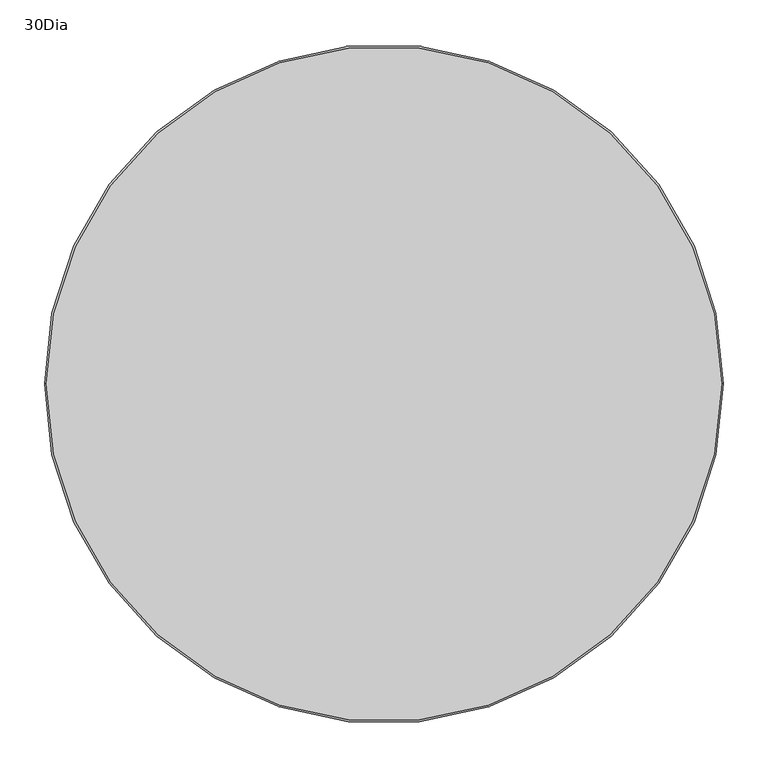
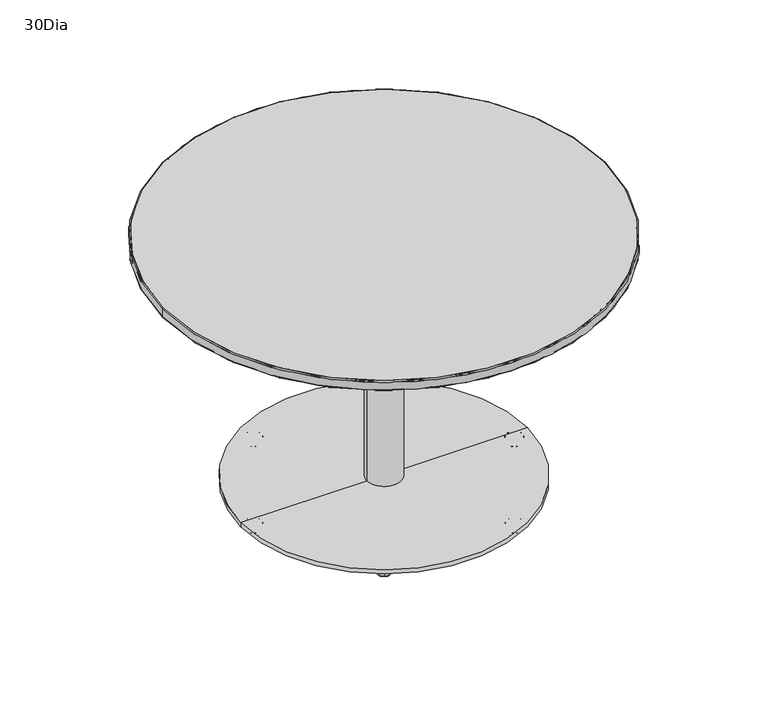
"""IFC4 building model written with IfcOpenShell, lengths in millimetres: furniture geometry, Coalesse_AM_Table_Occasional_Montara650Table_Round : 30Dia."""

from ifc_helpers import new_model, si_unit, point, frame, origin, origin_with_axes, origin_2d, place, context, project, spatial, polyline, circle_curve, ellipse_curve, trimmed, segment, composite_curve, outline, extrude, source, transform, mapped, element, save
from ifc_brep_helpers import plane_surface, cylinder_surface, revolved_surface, advanced_brep


def furniture_30dia_c0a6456b(model_context):
    return source(origin(), model_context, "Body", "SolidModel", [
        advanced_brep(
        [(213.8317407, 0.0, 0.0), (234.5998697, 0.0, 0.0), (224.2158052, 0.0, 0.0), (213.05887, 0.0, 0.5718943), (235.3727405, 0.0, 0.5718943), (209.8074529, 0.0, 11.2068005), (238.6241576, 0.0, 11.2068005), (210.3943809, 0.0, 11.9999882), (238.0372296, 0.0, 11.9999882), (224.2158052, 0.0, 11.9999882)],
        [
            (0, 1, circle_curve(frame((224.2158052, 0.0, 0.0), z_axis=(0.0, 0.0, -1.0), x_axis=(1.0, 0.0, 0.0)), 10.3840645)),
            (1, 2),
            (2, 0),
            (1, 0, circle_curve(frame((224.2158052, 0.0, 0.0), z_axis=(0.0, 0.0, -1.0), x_axis=(1.0, 0.0, 0.0)), 10.3840645)),
            (3, 4, circle_curve(frame((224.2158052, 0.0, 0.5718943), z_axis=(0.0, 0.0, -1.0), x_axis=(1.0, 0.0, 0.0)), 11.1569353)),
            (4, 1, circle_curve(frame((234.5998697, 0.0, 0.8081846), z_axis=(0.0, 1.0, 0.0), x_axis=(1.0, 0.0, 0.0)), 0.8081846)),
            (0, 3, circle_curve(frame((213.8317407, 0.0, 0.8081846), z_axis=(0.0, 1.0, 0.0), x_axis=(-1.0, 0.0, 0.0)), 0.8081846)),
            (4, 3, circle_curve(frame((224.2158052, 0.0, 0.5718943), z_axis=(0.0, 0.0, -1.0), x_axis=(1.0, 0.0, 0.0)), 11.1569353)),
            (5, 6, circle_curve(frame((224.2158052, 0.0, 11.2068005), z_axis=(0.0, 0.0, -1.0), x_axis=(1.0, 0.0, 0.0)), 14.4083524)),
            (6, 4),
            (3, 5),
            (6, 5, circle_curve(frame((224.2158052, 0.0, 11.2068005), z_axis=(0.0, 0.0, -1.0), x_axis=(1.0, 0.0, 0.0)), 14.4083524)),
            (7, 8, circle_curve(frame((224.2158052, 0.0, 11.9999882), z_axis=(0.0, 0.0, -1.0), x_axis=(1.0, 0.0, 0.0)), 13.8214243)),
            (8, 6, circle_curve(frame((238.0372296, 0.0, 11.3862424), z_axis=(0.0, 1.0, 0.0), x_axis=(1.0, 0.0, 0.0)), 0.6137458)),
            (5, 7, circle_curve(frame((210.3943809, 0.0, 11.3862424), z_axis=(0.0, 1.0, 0.0), x_axis=(-1.0, 0.0, 0.0)), 0.6137458)),
            (8, 7, circle_curve(frame((224.2158052, 0.0, 11.9999882), z_axis=(0.0, 0.0, -1.0), x_axis=(1.0, 0.0, 0.0)), 13.8214243)),
            (9, 8),
            (7, 9),
        ],
        [
            plane_surface(frame((224.2158052, 0.0, 0.0), z_axis=(0.0, 0.0, -1.0), x_axis=(1.0, 0.0, 0.0))),
            revolved_surface(trimmed(ellipse_curve(frame((234.5998697, 0.0, 0.8081846), z_axis=(0.0, -1.0, 0.0), x_axis=(1.0, 0.0, 0.0)), 0.8081846, 0.8081846), [point((234.5998697, 0.0, 0.0))], [point((235.3727405, 0.0, 0.5718943))], True, "CARTESIAN"), (224.2158052, 0.0, 12.2086845), (0.0, 0.0, 1.0)),
            revolved_surface(polyline([(235.3727405, 0.0, 0.5718943), (238.6241576, 0.0, 11.2068005)]), (224.2158052, 0.0, 12.2086845), (0.0, 0.0, 1.0)),
            revolved_surface(trimmed(ellipse_curve(frame((238.0372296, 0.0, 11.3862424), z_axis=(0.0, -1.0, 0.0), x_axis=(1.0, 0.0, 0.0)), 0.6137458, 0.6137458), [point((238.6241576, 0.0, 11.2068005))], [point((238.0372296, 0.0, 11.9999882))], True, "CARTESIAN"), (224.2158052, 0.0, 12.2086845), (0.0, 0.0, 1.0)),
            plane_surface(frame((224.2158052, 0.0, 11.9999882), z_axis=(0.0, 0.0, 1.0), x_axis=(1.0, 0.0, 0.0))),
        ],
        [
            (0, [[1, 2, 3]]),
            (0, [[4, -3, -2]]),
            (1, [[5, 6, -1, 7]]),
            (1, [[8, -7, -4, -6]]),
            (2, [[9, 10, -5, 11]]),
            (2, [[12, -11, -8, -10]]),
            (3, [[13, 14, -9, 15]]),
            (3, [[16, -15, -12, -14]]),
            (4, [[17, -13, 18]]),
            (4, [[-18, -16, -17]]),
        ],
    ),
        advanced_brep(
        [(-112.4946772, 194.8464965, 0.0), (-117.6867095, 203.8393602, 0.0), (-107.302645, 185.8536329, 0.0), (-118.0731448, 204.5086859, 0.5718943), (-106.9162096, 185.1843072, 0.5718943), (-119.6988534, 207.3244957, 11.2068005), (-105.290501, 182.3684973, 11.2068005), (-119.4053894, 206.8162011, 11.9999882), (-105.5839651, 182.8767919, 11.9999882), (-112.4946772, 194.8464965, 11.9999882)],
        [
            (0, 1),
            (1, 2, circle_curve(frame((-112.4946772, 194.8464965, 0.0), z_axis=(0.0, 0.0, -1.0), x_axis=(-0.5000000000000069, 0.8660254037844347, 0.0)), 10.3840645)),
            (2, 0),
            (2, 1, circle_curve(frame((-112.4946772, 194.8464965, 0.0), z_axis=(0.0, 0.0, -1.0), x_axis=(-0.5000000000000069, 0.8660254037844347, 0.0)), 10.3840645)),
            (1, 3, circle_curve(frame((-117.6867095, 203.8393602, 0.8081846), z_axis=(0.8660254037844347, 0.5000000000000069, 0.0), x_axis=(-0.5000000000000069, 0.8660254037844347, 0.0)), 0.8081846)),
            (3, 4, circle_curve(frame((-112.4946772, 194.8464965, 0.5718943), z_axis=(0.0, 0.0, -1.0), x_axis=(-0.5000000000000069, 0.8660254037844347, 0.0)), 11.1569353)),
            (4, 2, circle_curve(frame((-107.302645, 185.8536329, 0.8081846), z_axis=(0.866025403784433, 0.5000000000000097, 0.0), x_axis=(0.5000000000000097, -0.866025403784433, 0.0)), 0.8081846)),
            (4, 3, circle_curve(frame((-112.4946772, 194.8464965, 0.5718943), z_axis=(0.0, 0.0, -1.0), x_axis=(-0.5000000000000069, 0.8660254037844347, 0.0)), 11.1569353)),
            (3, 5),
            (5, 6, circle_curve(frame((-112.4946772, 194.8464965, 11.2068005), z_axis=(0.0, 0.0, -1.0), x_axis=(-0.5000000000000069, 0.8660254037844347, 0.0)), 14.4083524)),
            (6, 4),
            (6, 5, circle_curve(frame((-112.4946772, 194.8464965, 11.2068005), z_axis=(0.0, 0.0, -1.0), x_axis=(-0.5000000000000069, 0.8660254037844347, 0.0)), 14.4083524)),
            (5, 7, circle_curve(frame((-119.4053894, 206.8162011, 11.3862424), z_axis=(0.8660254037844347, 0.5000000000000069, 0.0), x_axis=(-0.5000000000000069, 0.8660254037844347, 0.0)), 0.6137458)),
            (7, 8, circle_curve(frame((-112.4946772, 194.8464965, 11.9999882), z_axis=(0.0, 0.0, -1.0), x_axis=(-0.5000000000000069, 0.8660254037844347, 0.0)), 13.8214243)),
            (8, 6, circle_curve(frame((-105.5839651, 182.8767919, 11.3862424), z_axis=(0.866025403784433, 0.5000000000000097, 0.0), x_axis=(0.5000000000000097, -0.866025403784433, 0.0)), 0.6137458)),
            (8, 7, circle_curve(frame((-112.4946772, 194.8464965, 11.9999882), z_axis=(0.0, 0.0, -1.0), x_axis=(-0.5000000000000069, 0.8660254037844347, 0.0)), 13.8214243)),
            (7, 9),
            (9, 8),
        ],
        [
            plane_surface(frame((-112.4946772, 194.8464965, 0.0), z_axis=(0.0, 0.0, -1.0), x_axis=(-0.5000000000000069, 0.8660254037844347, 0.0))),
            revolved_surface(trimmed(ellipse_curve(frame((-117.6867095, 203.8393602, 0.8081846), z_axis=(-0.8660254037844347, -0.5000000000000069, 0.0), x_axis=(-0.5000000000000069, 0.8660254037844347, 0.0)), 0.8081846, 0.8081846), [point((-118.0731448, 204.5086859, 0.5718943))], [point((-117.6867095, 203.8393602, 0.0))], True, "CARTESIAN"), (-112.4946772, 194.8464965, 12.2086845), (0.0, 0.0, -1.0)),
            revolved_surface(polyline([(-119.6988534, 207.3244957, 11.2068005), (-118.0731448, 204.5086859, 0.5718943)]), (-112.4946772, 194.8464965, 12.2086845), (0.0, 0.0, -1.0)),
            revolved_surface(trimmed(ellipse_curve(frame((-119.4053894, 206.8162011, 11.3862424), z_axis=(-0.8660254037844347, -0.5000000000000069, 0.0), x_axis=(-0.5000000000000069, 0.8660254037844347, 0.0)), 0.6137458, 0.6137458), [point((-119.4053894, 206.8162011, 11.9999882))], [point((-119.6988534, 207.3244957, 11.2068005))], True, "CARTESIAN"), (-112.4946772, 194.8464965, 12.2086845), (0.0, 0.0, -1.0)),
            plane_surface(frame((-112.4946772, 194.8464965, 11.9999882), z_axis=(0.0, 0.0, 1.0), x_axis=(-0.5000000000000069, 0.8660254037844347, 0.0))),
        ],
        [
            (0, [[1, 2, 3]]),
            (0, [[-3, 4, -1]]),
            (1, [[-2, 5, 6, 7]]),
            (1, [[-4, -7, 8, -5]]),
            (2, [[-6, 9, 10, 11]]),
            (2, [[-8, -11, 12, -9]]),
            (3, [[-10, 13, 14, 15]]),
            (3, [[-12, -15, 16, -13]]),
            (4, [[-14, 17, 18]]),
            (4, [[-16, -18, -17]]),
        ],
    ),
        advanced_brep(
        [(107.302645, -185.8536329, 0.0), (117.6867095, -203.8393602, 0.0), (112.4946772, -194.8464965, 0.0), (106.9162096, -185.1843072, 0.5718943), (118.0731448, -204.5086859, 0.5718943), (105.290501, -182.3684973, 11.2068005), (119.6988534, -207.3244957, 11.2068005), (105.5839651, -182.8767919, 11.9999882), (119.4053894, -206.8162011, 11.9999882), (112.4946772, -194.8464965, 11.9999882)],
        [
            (0, 1, circle_curve(frame((112.4946772, -194.8464965, 0.0), z_axis=(0.0, 0.0, -1.0), x_axis=(0.5000000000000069, -0.8660254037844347, 0.0)), 10.3840645)),
            (1, 2),
            (2, 0),
            (1, 0, circle_curve(frame((112.4946772, -194.8464965, 0.0), z_axis=(0.0, 0.0, -1.0), x_axis=(0.5000000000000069, -0.8660254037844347, 0.0)), 10.3840645)),
            (3, 4, circle_curve(frame((112.4946772, -194.8464965, 0.5718943), z_axis=(0.0, 0.0, -1.0), x_axis=(0.5000000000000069, -0.8660254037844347, 0.0)), 11.1569353)),
            (4, 1, circle_curve(frame((117.6867095, -203.8393602, 0.8081846), z_axis=(0.8660254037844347, 0.5000000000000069, 0.0), x_axis=(0.5000000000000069, -0.8660254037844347, 0.0)), 0.8081846)),
            (0, 3, circle_curve(frame((107.302645, -185.8536329, 0.8081846), z_axis=(0.8660254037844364, 0.5000000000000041, 0.0), x_axis=(-0.5000000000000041, 0.8660254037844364, 0.0)), 0.8081846)),
            (4, 3, circle_curve(frame((112.4946772, -194.8464965, 0.5718943), z_axis=(0.0, 0.0, -1.0), x_axis=(0.5000000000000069, -0.8660254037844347, 0.0)), 11.1569353)),
            (5, 6, circle_curve(frame((112.4946772, -194.8464965, 11.2068005), z_axis=(0.0, 0.0, -1.0), x_axis=(0.5000000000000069, -0.8660254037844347, 0.0)), 14.4083524)),
            (6, 4),
            (3, 5),
            (6, 5, circle_curve(frame((112.4946772, -194.8464965, 11.2068005), z_axis=(0.0, 0.0, -1.0), x_axis=(0.5000000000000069, -0.8660254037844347, 0.0)), 14.4083524)),
            (7, 8, circle_curve(frame((112.4946772, -194.8464965, 11.9999882), z_axis=(0.0, 0.0, -1.0), x_axis=(0.5000000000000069, -0.8660254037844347, 0.0)), 13.8214243)),
            (8, 6, circle_curve(frame((119.4053894, -206.8162011, 11.3862424), z_axis=(0.8660254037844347, 0.5000000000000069, 0.0), x_axis=(0.5000000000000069, -0.8660254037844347, 0.0)), 0.6137458)),
            (5, 7, circle_curve(frame((105.5839651, -182.8767919, 11.3862424), z_axis=(0.8660254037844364, 0.5000000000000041, 0.0), x_axis=(-0.5000000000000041, 0.8660254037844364, 0.0)), 0.6137458)),
            (8, 7, circle_curve(frame((112.4946772, -194.8464965, 11.9999882), z_axis=(0.0, 0.0, -1.0), x_axis=(0.5000000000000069, -0.8660254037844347, 0.0)), 13.8214243)),
            (9, 8),
            (7, 9),
        ],
        [
            plane_surface(frame((112.4946772, -194.8464965, 0.0), z_axis=(0.0, 0.0, -1.0), x_axis=(0.5000000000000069, -0.8660254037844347, 0.0))),
            revolved_surface(trimmed(ellipse_curve(frame((117.6867095, -203.8393602, 0.8081846), z_axis=(-0.8660254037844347, -0.5000000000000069, 0.0), x_axis=(0.5000000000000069, -0.8660254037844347, 0.0)), 0.8081846, 0.8081846), [point((117.6867095, -203.8393602, 0.0))], [point((118.0731448, -204.5086859, 0.5718943))], True, "CARTESIAN"), (112.4946772, -194.8464965, 12.2086845), (0.0, 0.0, 1.0)),
            revolved_surface(polyline([(118.0731448, -204.5086859, 0.5718943), (119.6988534, -207.3244957, 11.2068005)]), (112.4946772, -194.8464965, 12.2086845), (0.0, 0.0, 1.0)),
            revolved_surface(trimmed(ellipse_curve(frame((119.4053894, -206.8162011, 11.3862424), z_axis=(-0.8660254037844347, -0.5000000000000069, 0.0), x_axis=(0.5000000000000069, -0.8660254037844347, 0.0)), 0.6137458, 0.6137458), [point((119.6988534, -207.3244957, 11.2068005))], [point((119.4053894, -206.8162011, 11.9999882))], True, "CARTESIAN"), (112.4946772, -194.8464965, 12.2086845), (0.0, 0.0, 1.0)),
            plane_surface(frame((112.4946772, -194.8464965, 11.9999882), z_axis=(0.0, 0.0, 1.0), x_axis=(0.5000000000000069, -0.8660254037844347, 0.0))),
        ],
        [
            (0, [[1, 2, 3]]),
            (0, [[4, -3, -2]]),
            (1, [[5, 6, -1, 7]]),
            (1, [[8, -7, -4, -6]]),
            (2, [[9, 10, -5, 11]]),
            (2, [[12, -11, -8, -10]]),
            (3, [[13, 14, -9, 15]]),
            (3, [[16, -15, -12, -14]]),
            (4, [[17, -13, 18]]),
            (4, [[-18, -16, -17]]),
        ],
    ),
        advanced_brep(
        [(107.302645, 185.8536329, 0.0), (117.6867095, 203.8393602, 0.0), (112.4946772, 194.8464965, 0.0), (106.9162096, 185.1843072, 0.5718943), (118.0731448, 204.5086859, 0.5718943), (105.290501, 182.3684973, 11.2068005), (119.6988534, 207.3244957, 11.2068005), (105.5839651, 182.8767919, 11.9999882), (119.4053894, 206.8162011, 11.9999882), (112.4946772, 194.8464965, 11.9999882)],
        [
            (0, 1, circle_curve(frame((112.4946772, 194.8464965, 0.0), z_axis=(0.0, 0.0, -1.0), x_axis=(0.5000000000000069, 0.8660254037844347, 0.0)), 10.3840645)),
            (1, 2),
            (2, 0),
            (1, 0, circle_curve(frame((112.4946772, 194.8464965, 0.0), z_axis=(0.0, 0.0, -1.0), x_axis=(0.5000000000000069, 0.8660254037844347, 0.0)), 10.3840645)),
            (3, 4, circle_curve(frame((112.4946772, 194.8464965, 0.5718943), z_axis=(0.0, 0.0, -1.0), x_axis=(0.5000000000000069, 0.8660254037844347, 0.0)), 11.1569353)),
            (4, 1, circle_curve(frame((117.6867095, 203.8393602, 0.8081846), z_axis=(-0.8660254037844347, 0.5000000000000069, 0.0), x_axis=(0.5000000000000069, 0.8660254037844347, 0.0)), 0.8081846)),
            (0, 3, circle_curve(frame((107.302645, 185.8536329, 0.8081846), z_axis=(-0.866025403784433, 0.5000000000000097, 0.0), x_axis=(-0.5000000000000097, -0.866025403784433, 0.0)), 0.8081846)),
            (4, 3, circle_curve(frame((112.4946772, 194.8464965, 0.5718943), z_axis=(0.0, 0.0, -1.0), x_axis=(0.5000000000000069, 0.8660254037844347, 0.0)), 11.1569353)),
            (5, 6, circle_curve(frame((112.4946772, 194.8464965, 11.2068005), z_axis=(0.0, 0.0, -1.0), x_axis=(0.5000000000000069, 0.8660254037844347, 0.0)), 14.4083524)),
            (6, 4),
            (3, 5),
            (6, 5, circle_curve(frame((112.4946772, 194.8464965, 11.2068005), z_axis=(0.0, 0.0, -1.0), x_axis=(0.5000000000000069, 0.8660254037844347, 0.0)), 14.4083524)),
            (7, 8, circle_curve(frame((112.4946772, 194.8464965, 11.9999882), z_axis=(0.0, 0.0, -1.0), x_axis=(0.5000000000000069, 0.8660254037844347, 0.0)), 13.8214243)),
            (8, 6, circle_curve(frame((119.4053894, 206.8162011, 11.3862424), z_axis=(-0.8660254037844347, 0.5000000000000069, 0.0), x_axis=(0.5000000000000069, 0.8660254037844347, 0.0)), 0.6137458)),
            (5, 7, circle_curve(frame((105.5839651, 182.8767919, 11.3862424), z_axis=(-0.866025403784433, 0.5000000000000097, 0.0), x_axis=(-0.5000000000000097, -0.866025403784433, 0.0)), 0.6137458)),
            (8, 7, circle_curve(frame((112.4946772, 194.8464965, 11.9999882), z_axis=(0.0, 0.0, -1.0), x_axis=(0.5000000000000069, 0.8660254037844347, 0.0)), 13.8214243)),
            (9, 8),
            (7, 9),
        ],
        [
            plane_surface(frame((112.4946772, 194.8464965, 0.0), z_axis=(0.0, 0.0, -1.0), x_axis=(0.5000000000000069, 0.8660254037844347, 0.0))),
            revolved_surface(trimmed(ellipse_curve(frame((117.6867095, 203.8393602, 0.8081846), z_axis=(0.8660254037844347, -0.5000000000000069, 0.0), x_axis=(0.5000000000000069, 0.8660254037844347, 0.0)), 0.8081846, 0.8081846), [point((117.6867095, 203.8393602, 0.0))], [point((118.0731448, 204.5086859, 0.5718943))], True, "CARTESIAN"), (112.4946772, 194.8464965, 12.2086845), (0.0, 0.0, 1.0)),
            revolved_surface(polyline([(118.0731448, 204.5086859, 0.5718943), (119.6988534, 207.3244957, 11.2068005)]), (112.4946772, 194.8464965, 12.2086845), (0.0, 0.0, 1.0)),
            revolved_surface(trimmed(ellipse_curve(frame((119.4053894, 206.8162011, 11.3862424), z_axis=(0.8660254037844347, -0.5000000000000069, 0.0), x_axis=(0.5000000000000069, 0.8660254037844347, 0.0)), 0.6137458, 0.6137458), [point((119.6988534, 207.3244957, 11.2068005))], [point((119.4053894, 206.8162011, 11.9999882))], True, "CARTESIAN"), (112.4946772, 194.8464965, 12.2086845), (0.0, 0.0, 1.0)),
            plane_surface(frame((112.4946772, 194.8464965, 11.9999882), z_axis=(0.0, 0.0, 1.0), x_axis=(0.5000000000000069, 0.8660254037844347, 0.0))),
        ],
        [
            (0, [[1, 2, 3]]),
            (0, [[4, -3, -2]]),
            (1, [[5, 6, -1, 7]]),
            (1, [[8, -7, -4, -6]]),
            (2, [[9, 10, -5, 11]]),
            (2, [[12, -11, -8, -10]]),
            (3, [[13, 14, -9, 15]]),
            (3, [[16, -15, -12, -14]]),
            (4, [[17, -13, 18]]),
            (4, [[-18, -16, -17]]),
        ],
    ),
        advanced_brep(
        [(-112.4946772, -194.8464965, 0.0), (-117.6867095, -203.8393602, 0.0), (-107.302645, -185.8536329, 0.0), (-118.0731448, -204.5086859, 0.5718943), (-106.9162096, -185.1843072, 0.5718943), (-119.6988534, -207.3244957, 11.2068005), (-105.290501, -182.3684973, 11.2068005), (-119.4053894, -206.8162011, 11.9999882), (-105.5839651, -182.8767919, 11.9999882), (-112.4946772, -194.8464965, 11.9999882)],
        [
            (0, 1),
            (1, 2, circle_curve(frame((-112.4946772, -194.8464965, 0.0), z_axis=(0.0, 0.0, -1.0), x_axis=(-0.5000000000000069, -0.8660254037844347, 0.0)), 10.3840645)),
            (2, 0),
            (2, 1, circle_curve(frame((-112.4946772, -194.8464965, 0.0), z_axis=(0.0, 0.0, -1.0), x_axis=(-0.5000000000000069, -0.8660254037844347, 0.0)), 10.3840645)),
            (1, 3, circle_curve(frame((-117.6867095, -203.8393602, 0.8081846), z_axis=(-0.8660254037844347, 0.5000000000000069, 0.0), x_axis=(-0.5000000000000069, -0.8660254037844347, 0.0)), 0.8081846)),
            (3, 4, circle_curve(frame((-112.4946772, -194.8464965, 0.5718943), z_axis=(0.0, 0.0, -1.0), x_axis=(-0.5000000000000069, -0.8660254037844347, 0.0)), 11.1569353)),
            (4, 2, circle_curve(frame((-107.302645, -185.8536329, 0.8081846), z_axis=(-0.8660254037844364, 0.5000000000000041, 0.0), x_axis=(0.5000000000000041, 0.8660254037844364, 0.0)), 0.8081846)),
            (4, 3, circle_curve(frame((-112.4946772, -194.8464965, 0.5718943), z_axis=(0.0, 0.0, -1.0), x_axis=(-0.5000000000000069, -0.8660254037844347, 0.0)), 11.1569353)),
            (3, 5),
            (5, 6, circle_curve(frame((-112.4946772, -194.8464965, 11.2068005), z_axis=(0.0, 0.0, -1.0), x_axis=(-0.5000000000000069, -0.8660254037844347, 0.0)), 14.4083524)),
            (6, 4),
            (6, 5, circle_curve(frame((-112.4946772, -194.8464965, 11.2068005), z_axis=(0.0, 0.0, -1.0), x_axis=(-0.5000000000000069, -0.8660254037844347, 0.0)), 14.4083524)),
            (5, 7, circle_curve(frame((-119.4053894, -206.8162011, 11.3862424), z_axis=(-0.8660254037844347, 0.5000000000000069, 0.0), x_axis=(-0.5000000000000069, -0.8660254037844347, 0.0)), 0.6137458)),
            (7, 8, circle_curve(frame((-112.4946772, -194.8464965, 11.9999882), z_axis=(0.0, 0.0, -1.0), x_axis=(-0.5000000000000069, -0.8660254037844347, 0.0)), 13.8214243)),
            (8, 6, circle_curve(frame((-105.5839651, -182.8767919, 11.3862424), z_axis=(-0.8660254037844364, 0.5000000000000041, 0.0), x_axis=(0.5000000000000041, 0.8660254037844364, 0.0)), 0.6137458)),
            (8, 7, circle_curve(frame((-112.4946772, -194.8464965, 11.9999882), z_axis=(0.0, 0.0, -1.0), x_axis=(-0.5000000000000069, -0.8660254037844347, 0.0)), 13.8214243)),
            (7, 9),
            (9, 8),
        ],
        [
            plane_surface(frame((-112.4946772, -194.8464965, 0.0), z_axis=(0.0, 0.0, -1.0), x_axis=(-0.5000000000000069, -0.8660254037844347, 0.0))),
            revolved_surface(trimmed(ellipse_curve(frame((-117.6867095, -203.8393602, 0.8081846), z_axis=(0.8660254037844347, -0.5000000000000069, 0.0), x_axis=(-0.5000000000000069, -0.8660254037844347, 0.0)), 0.8081846, 0.8081846), [point((-118.0731448, -204.5086859, 0.5718943))], [point((-117.6867095, -203.8393602, 0.0))], True, "CARTESIAN"), (-112.4946772, -194.8464965, 12.2086845), (0.0, 0.0, -1.0)),
            revolved_surface(polyline([(-119.6988534, -207.3244957, 11.2068005), (-118.0731448, -204.5086859, 0.5718943)]), (-112.4946772, -194.8464965, 12.2086845), (0.0, 0.0, -1.0)),
            revolved_surface(trimmed(ellipse_curve(frame((-119.4053894, -206.8162011, 11.3862424), z_axis=(0.8660254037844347, -0.5000000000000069, 0.0), x_axis=(-0.5000000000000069, -0.8660254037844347, 0.0)), 0.6137458, 0.6137458), [point((-119.4053894, -206.8162011, 11.9999882))], [point((-119.6988534, -207.3244957, 11.2068005))], True, "CARTESIAN"), (-112.4946772, -194.8464965, 12.2086845), (0.0, 0.0, -1.0)),
            plane_surface(frame((-112.4946772, -194.8464965, 11.9999882), z_axis=(0.0, 0.0, 1.0), x_axis=(-0.5000000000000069, -0.8660254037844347, 0.0))),
        ],
        [
            (0, [[1, 2, 3]]),
            (0, [[-3, 4, -1]]),
            (1, [[-2, 5, 6, 7]]),
            (1, [[-4, -7, 8, -5]]),
            (2, [[-6, 9, 10, 11]]),
            (2, [[-8, -11, 12, -9]]),
            (3, [[-10, 13, 14, 15]]),
            (3, [[-12, -15, 16, -13]]),
            (4, [[-14, 17, 18]]),
            (4, [[-16, -18, -17]]),
        ],
    ),
        advanced_brep(
        [(214.6052899, 0.0, 0.0), (235.3734189, 0.0, 0.0), (224.9893544, 0.0, 0.0), (213.8324192, 0.0, 0.5718943), (236.1462897, 0.0, 0.5718943), (210.5810021, 0.0, 11.2068005), (239.3977068, 0.0, 11.2068005), (211.1679301, 0.0, 11.9999882), (238.8107788, 0.0, 11.9999882), (224.9893544, 0.0, 11.9999882)],
        [
            (0, 1, circle_curve(frame((224.9893544, 0.0, 0.0), z_axis=(0.0, 0.0, -1.0), x_axis=(1.0, 0.0, 0.0)), 10.3840645)),
            (1, 2),
            (2, 0),
            (1, 0, circle_curve(frame((224.9893544, 0.0, 0.0), z_axis=(0.0, 0.0, -1.0), x_axis=(1.0, 0.0, 0.0)), 10.3840645)),
            (3, 4, circle_curve(frame((224.9893544, 0.0, 0.5718943), z_axis=(0.0, 0.0, -1.0), x_axis=(1.0, 0.0, 0.0)), 11.1569353)),
            (4, 1, circle_curve(frame((235.3734189, 0.0, 0.8081846), z_axis=(0.0, 1.0, 0.0), x_axis=(1.0, 0.0, 0.0)), 0.8081846)),
            (0, 3, circle_curve(frame((214.6052899, 0.0, 0.8081846), z_axis=(0.0, 1.0, 0.0), x_axis=(-1.0, 0.0, 0.0)), 0.8081846)),
            (4, 3, circle_curve(frame((224.9893544, 0.0, 0.5718943), z_axis=(0.0, 0.0, -1.0), x_axis=(1.0, 0.0, 0.0)), 11.1569353)),
            (5, 6, circle_curve(frame((224.9893544, 0.0, 11.2068005), z_axis=(0.0, 0.0, -1.0), x_axis=(1.0, 0.0, 0.0)), 14.4083524)),
            (6, 4),
            (3, 5),
            (6, 5, circle_curve(frame((224.9893544, 0.0, 11.2068005), z_axis=(0.0, 0.0, -1.0), x_axis=(1.0, 0.0, 0.0)), 14.4083524)),
            (7, 8, circle_curve(frame((224.9893544, 0.0, 11.9999882), z_axis=(0.0, 0.0, -1.0), x_axis=(1.0, 0.0, 0.0)), 13.8214243)),
            (8, 6, circle_curve(frame((238.8107788, 0.0, 11.3862424), z_axis=(0.0, 1.0, 0.0), x_axis=(1.0, 0.0, 0.0)), 0.6137458)),
            (5, 7, circle_curve(frame((211.1679301, 0.0, 11.3862424), z_axis=(0.0, 1.0, 0.0), x_axis=(-1.0, 0.0, 0.0)), 0.6137458)),
            (8, 7, circle_curve(frame((224.9893544, 0.0, 11.9999882), z_axis=(0.0, 0.0, -1.0), x_axis=(1.0, 0.0, 0.0)), 13.8214243)),
            (9, 8),
            (7, 9),
        ],
        [
            plane_surface(frame((224.9893544, 0.0, 0.0), z_axis=(0.0, 0.0, -1.0), x_axis=(1.0, 0.0, 0.0))),
            revolved_surface(trimmed(ellipse_curve(frame((235.3734189, 0.0, 0.8081846), z_axis=(0.0, -1.0, 0.0), x_axis=(1.0, 0.0, 0.0)), 0.8081846, 0.8081846), [point((235.3734189, 0.0, 0.0))], [point((236.1462897, 0.0, 0.5718943))], True, "CARTESIAN"), (224.9893544, 0.0, 12.2086845), (0.0, 0.0, 1.0)),
            revolved_surface(polyline([(236.1462897, 0.0, 0.5718943), (239.3977068, 0.0, 11.2068005)]), (224.9893544, 0.0, 12.2086845), (0.0, 0.0, 1.0)),
            revolved_surface(trimmed(ellipse_curve(frame((238.8107788, 0.0, 11.3862424), z_axis=(0.0, -1.0, 0.0), x_axis=(1.0, 0.0, 0.0)), 0.6137458, 0.6137458), [point((239.3977068, 0.0, 11.2068005))], [point((238.8107788, 0.0, 11.9999882))], True, "CARTESIAN"), (224.9893544, 0.0, 12.2086845), (0.0, 0.0, 1.0)),
            plane_surface(frame((224.9893544, 0.0, 11.9999882), z_axis=(0.0, 0.0, 1.0), x_axis=(1.0, 0.0, 0.0))),
        ],
        [
            (0, [[1, 2, 3]]),
            (0, [[4, -3, -2]]),
            (1, [[5, 6, -1, 7]]),
            (1, [[8, -7, -4, -6]]),
            (2, [[9, 10, -5, 11]]),
            (2, [[12, -11, -8, -10]]),
            (3, [[13, 14, -9, 15]]),
            (3, [[16, -15, -12, -14]]),
            (4, [[17, -13, 18]]),
            (4, [[-18, -16, -17]]),
        ],
    ),
        advanced_brep(
        [(-335.026, 0.0, 427.230027), (335.026, 0.0, 427.230027), (-378.968, 0.0, 439.495891), (378.968, 0.0, 439.495891)],
        [
            (0, 1, circle_curve(frame((0.0, 0.0, 427.230027), z_axis=(0.0, 0.0, -1.0), x_axis=(-1.0, 0.0, 0.0)), 335.026)),
            (1, 0, circle_curve(frame((0.0, 0.0, 427.230027), z_axis=(0.0, 0.0, -1.0), x_axis=(1.0, 0.0, 0.0)), 335.026)),
            (2, 3, circle_curve(frame((0.0, 0.0, 439.495891), z_axis=(0.0, 0.0, 1.0), x_axis=(1.0, 0.0, 0.0)), 378.968)),
            (3, 2, circle_curve(frame((0.0, 0.0, 439.495891), z_axis=(0.0, 0.0, 1.0), x_axis=(-1.0, 0.0, 0.0)), 378.968)),
            (2, 0),
            (1, 3),
        ],
        [
            plane_surface(frame((0.0, 0.0, 427.230027), z_axis=(0.0, 0.0, -1.0), x_axis=(0.0, -1.0, 0.0))),
            plane_surface(frame((0.0, 0.0, 439.495891), z_axis=(0.0, 0.0, 1.0), x_axis=(0.0, -1.0, 0.0))),
            revolved_surface(polyline([(335.0259998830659, 0.0, 427.230027), (378.968, 0.0, 439.495891)]), (0.0, 0.0, 333.7116769), (0.0, 0.0, 1.0)),
            revolved_surface(polyline([(-335.0259998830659, 0.0, 427.230027), (-378.968, 0.0, 439.495891)]), (0.0, 0.0, 333.7116769), (0.0, 0.0, 1.0)),
        ],
        [
            (0, [[1, 2]]),
            (1, [[3, 4]]),
            (2, [[-3, 5, -2, 6]]),
            (3, [[-4, -6, -1, -5]]),
        ],
    ),
        extrude(outline(composite_curve([segment(trimmed(circle_curve(origin_2d(), 378.968), [point((-378.968, 0.0))], [point((378.968, 0.0))], False, "CARTESIAN"), True, "CONTINUOUS"), segment(trimmed(circle_curve(origin_2d(), 378.968), [point((378.968, 0.0))], [point((-378.968, 0.0))], False, "CARTESIAN"), True, "CONTINUOUS")], self_intersect=False)), frame((0.0, 0.0, 439.495891), z_axis=(0.0, 0.0, 1.0), x_axis=(1.0, 0.0, 0.0)), (0.0, 0.0, 1.0), 17.704109),
        advanced_brep(
        [(-224.9893544, 0.0, 0.0), (-235.3734189, 0.0, 0.0), (-214.6052899, 0.0, 0.0), (-236.1462897, 0.0, 0.5718943), (-213.8324192, 0.0, 0.5718943), (-239.3977068, 0.0, 11.2068005), (-210.5810021, 0.0, 11.2068005), (-238.8107788, 0.0, 11.9999882), (-211.1679301, 0.0, 11.9999882), (-224.9893544, 0.0, 11.9999882)],
        [
            (0, 1),
            (1, 2, circle_curve(frame((-224.9893544, 0.0, 0.0), z_axis=(0.0, 0.0, -1.0), x_axis=(-1.0, 0.0, 0.0)), 10.3840645)),
            (2, 0),
            (2, 1, circle_curve(frame((-224.9893544, 0.0, 0.0), z_axis=(0.0, 0.0, -1.0), x_axis=(-1.0, 0.0, 0.0)), 10.3840645)),
            (1, 3, circle_curve(frame((-235.3734189, 0.0, 0.8081846), z_axis=(0.0, 1.0, 0.0), x_axis=(-1.0, 0.0, 0.0)), 0.8081846)),
            (3, 4, circle_curve(frame((-224.9893544, 0.0, 0.5718943), z_axis=(0.0, 0.0, -1.0), x_axis=(-1.0, 0.0, 0.0)), 11.1569353)),
            (4, 2, circle_curve(frame((-214.6052899, 0.0, 0.8081846), z_axis=(0.0, 1.0, 0.0), x_axis=(1.0, 0.0, 0.0)), 0.8081846)),
            (4, 3, circle_curve(frame((-224.9893544, 0.0, 0.5718943), z_axis=(0.0, 0.0, -1.0), x_axis=(-1.0, 0.0, 0.0)), 11.1569353)),
            (3, 5),
            (5, 6, circle_curve(frame((-224.9893544, 0.0, 11.2068005), z_axis=(0.0, 0.0, -1.0), x_axis=(-1.0, 0.0, 0.0)), 14.4083524)),
            (6, 4),
            (6, 5, circle_curve(frame((-224.9893544, 0.0, 11.2068005), z_axis=(0.0, 0.0, -1.0), x_axis=(-1.0, 0.0, 0.0)), 14.4083524)),
            (5, 7, circle_curve(frame((-238.8107788, 0.0, 11.3862424), z_axis=(0.0, 1.0, 0.0), x_axis=(-1.0, 0.0, 0.0)), 0.6137458)),
            (7, 8, circle_curve(frame((-224.9893544, 0.0, 11.9999882), z_axis=(0.0, 0.0, -1.0), x_axis=(-1.0, 0.0, 0.0)), 13.8214243)),
            (8, 6, circle_curve(frame((-211.1679301, 0.0, 11.3862424), z_axis=(0.0, 1.0, 0.0), x_axis=(1.0, 0.0, 0.0)), 0.6137458)),
            (8, 7, circle_curve(frame((-224.9893544, 0.0, 11.9999882), z_axis=(0.0, 0.0, -1.0), x_axis=(-1.0, 0.0, 0.0)), 13.8214243)),
            (7, 9),
            (9, 8),
        ],
        [
            plane_surface(frame((-224.9893544, 0.0, 0.0), z_axis=(0.0, 0.0, -1.0), x_axis=(-1.0, 0.0, 0.0))),
            revolved_surface(trimmed(ellipse_curve(frame((-235.3734189, 0.0, 0.8081846), z_axis=(0.0, -1.0, 0.0), x_axis=(-1.0, 0.0, 0.0)), 0.8081846, 0.8081846), [point((-236.1462897, 0.0, 0.5718943))], [point((-235.3734189, 0.0, 0.0))], True, "CARTESIAN"), (-224.9893544, 0.0, 12.2086845), (0.0, 0.0, -1.0)),
            revolved_surface(polyline([(-239.3977068, 0.0, 11.2068005), (-236.1462897, 0.0, 0.5718943)]), (-224.9893544, 0.0, 12.2086845), (0.0, 0.0, -1.0)),
            revolved_surface(trimmed(ellipse_curve(frame((-238.8107788, 0.0, 11.3862424), z_axis=(0.0, -1.0, 0.0), x_axis=(-1.0, 0.0, 0.0)), 0.6137458, 0.6137458), [point((-238.8107788, 0.0, 11.9999882))], [point((-239.3977068, 0.0, 11.2068005))], True, "CARTESIAN"), (-224.9893544, 0.0, 12.2086845), (0.0, 0.0, -1.0)),
            plane_surface(frame((-224.9893544, 0.0, 11.9999882), z_axis=(0.0, 0.0, 1.0), x_axis=(-1.0, 0.0, 0.0))),
        ],
        [
            (0, [[1, 2, 3]]),
            (0, [[-3, 4, -1]]),
            (1, [[-2, 5, 6, 7]]),
            (1, [[-4, -7, 8, -5]]),
            (2, [[-6, 9, 10, 11]]),
            (2, [[-8, -11, 12, -9]]),
            (3, [[-10, 13, 14, 15]]),
            (3, [[-12, -15, 16, -13]]),
            (4, [[-14, 17, 18]]),
            (4, [[-16, -18, -17]]),
        ],
    ),
        advanced_brep(
        [(381.0438665, 0.0, 441.4278467), (-381.0438665, 0.0, 441.4278467), (-378.968, 0.0, 439.495891), (378.968, 0.0, 439.495891), (381.0438665, 0.0, 455.1999283), (-381.0438665, 0.0, 455.1999283), (378.968, 0.0, 457.2), (-378.968, 0.0, 457.2)],
        [
            (0, 1, circle_curve(frame((0.0, 0.0, 441.4278467), z_axis=(0.0, 0.0, -1.0), x_axis=(-1.0, 0.0, 0.0)), 381.0438665)),
            (1, 2, circle_curve(frame((-379.1069224, 0.0, 441.4278467), z_axis=(0.0, -1.0, 0.0), x_axis=(1.0, 0.0, 0.0)), 1.9369441)),
            (2, 3, circle_curve(frame((0.0, 0.0, 439.495891), z_axis=(0.0, 0.0, 1.0), x_axis=(-1.0, 0.0, 0.0)), 378.968)),
            (3, 0, circle_curve(frame((379.1069224, 0.0, 441.4278467), z_axis=(0.0, -1.0, 0.0), x_axis=(-1.0, 0.0, 0.0)), 1.9369441)),
            (4, 5, circle_curve(frame((0.0, 0.0, 455.1999283), z_axis=(0.0, 0.0, -1.0), x_axis=(-1.0, 0.0, 0.0)), 381.0438665)),
            (5, 1),
            (0, 4),
            (6, 7, circle_curve(frame((0.0, 0.0, 457.2), z_axis=(0.0, 0.0, -1.0), x_axis=(-1.0, 0.0, 0.0)), 378.968)),
            (7, 5, circle_curve(frame((-379.0424111, 0.0, 455.1999283), z_axis=(0.0, -1.0, 0.0), x_axis=(1.0, 0.0, 0.0)), 2.0014554)),
            (4, 6, circle_curve(frame((379.0424111, 0.0, 455.1999283), z_axis=(0.0, -1.0, 0.0), x_axis=(-1.0, 0.0, 0.0)), 2.0014554)),
            (2, 7),
            (6, 3),
            (1, 0, circle_curve(frame((0.0, 0.0, 441.4278467), z_axis=(0.0, 0.0, -1.0), x_axis=(1.0, 0.0, 0.0)), 381.0438665)),
            (3, 2, circle_curve(frame((0.0, 0.0, 439.495891), z_axis=(0.0, 0.0, 1.0), x_axis=(1.0, 0.0, 0.0)), 378.968)),
            (5, 4, circle_curve(frame((0.0, 0.0, 455.1999283), z_axis=(0.0, 0.0, -1.0), x_axis=(1.0, 0.0, 0.0)), 381.0438665)),
            (7, 6, circle_curve(frame((0.0, 0.0, 457.2), z_axis=(0.0, 0.0, -1.0), x_axis=(1.0, 0.0, 0.0)), 378.968)),
        ],
        [
            revolved_surface(trimmed(ellipse_curve(frame((-379.1069224, 0.0, 441.4278467), z_axis=(0.0, 1.0, 0.0), x_axis=(1.0, 0.0, 0.0)), 1.9369441, 1.9369441), [point((-378.968, 0.0, 439.495891))], [point((-381.0438665, 0.0, 441.4278467))], True, "CARTESIAN"), (0.0, 0.0, 0.0), (0.0, 0.0, 1.0)),
            cylinder_surface(frame((0.0, 0.0, 0.0), z_axis=(0.0, 0.0, 1.0), x_axis=(-1.0, 0.0, 0.0)), 381.0438665),
            revolved_surface(trimmed(ellipse_curve(frame((-379.0424111, 0.0, 455.1999283), z_axis=(0.0, 1.0, 0.0), x_axis=(1.0, 0.0, 0.0)), 2.0014554, 2.0014554), [point((-381.0438665, 0.0, 455.1999283))], [point((-378.968, 0.0, 457.2))], True, "CARTESIAN"), (0.0, 0.0, 0.0), (0.0, 0.0, 1.0)),
            revolved_surface(polyline([(-378.968, 0.0, 457.2), (-378.968, 0.0, 439.495891)]), (0.0, 0.0, 0.0), (0.0, 0.0, 1.0)),
            revolved_surface(trimmed(ellipse_curve(frame((379.1069224, 0.0, 441.4278467), z_axis=(0.0, -1.0, 0.0), x_axis=(-1.0, 0.0, 0.0)), 1.9369441, 1.9369441), [point((378.968, 0.0, 439.495891))], [point((381.0438665, 0.0, 441.4278467))], True, "CARTESIAN"), (0.0, 0.0, 0.0), (0.0, 0.0, 1.0)),
            cylinder_surface(origin_with_axes(), 381.0438665),
            revolved_surface(trimmed(ellipse_curve(frame((379.0424111, 0.0, 455.1999283), z_axis=(0.0, -1.0, 0.0), x_axis=(-1.0, 0.0, 0.0)), 2.0014554, 2.0014554), [point((381.0438665, 0.0, 455.1999283))], [point((378.968, 0.0, 457.2))], True, "CARTESIAN"), (0.0, 0.0, 0.0), (0.0, 0.0, 1.0)),
            revolved_surface(polyline([(378.968, 0.0, 457.2), (378.968, 0.0, 439.495891)]), (0.0, 0.0, 0.0), (0.0, 0.0, 1.0)),
        ],
        [
            (0, [[1, 2, 3, 4]]),
            (1, [[5, 6, -1, 7]]),
            (2, [[8, 9, -5, 10]]),
            (3, [[-3, 11, -8, 12]]),
            (4, [[13, -4, 14, -2]]),
            (5, [[15, -7, -13, -6]]),
            (6, [[16, -10, -15, -9]]),
            (7, [[-14, -12, -16, -11]]),
        ],
    ),
        advanced_brep(
        [(131.6004101, 0.0, 424.055027), (-131.6004101, 0.0, 424.055027), (-176.1626132, 0.0, 424.055027), (176.1626132, 0.0, 424.055027), (121.0488662, 0.0, 422.9460151), (-121.0488662, 0.0, 422.9460151), (48.7461809, 0.0, 408.2837029), (-48.7461809, 0.0, 408.2837029), (37.412985, 0.0, 408.2837029), (-37.412985, 0.0, 408.2837029), (29.5495828, 0.0, 19.9999965), (-29.5495828, 0.0, 19.9999965), (-29.5495828, 0.0, 420.0852036), (29.5495828, 0.0, 420.0852036), (246.3799842, 0.0, 19.9999965), (-246.3799842, 0.0, 19.9999965), (246.3799842, 0.0, 11.9999882), (-246.3799842, 0.0, 11.9999882), (0.0, 0.0, 11.9999882), (176.1626132, 0.0, 427.230027), (-176.1626132, 0.0, 427.230027), (0.0, 0.0, 427.230027), (33.3511087, 0.0, 409.7383874), (-33.3511087, 0.0, 409.7383874), (31.712334, 0.0, 420.0852036), (-31.712334, 0.0, 420.0852036)],
        [
            (0, 1, circle_curve(frame((0.0, 0.0, 424.055027), z_axis=(0.0, 0.0, 1.0), x_axis=(-1.0, 0.0, 0.0)), 131.6004101)),
            (1, 2),
            (2, 3, circle_curve(frame((0.0, 0.0, 424.055027), z_axis=(0.0, 0.0, -1.0), x_axis=(-1.0, 0.0, 0.0)), 176.1626132)),
            (3, 0),
            (1, 0, circle_curve(frame((0.0, 0.0, 424.055027), z_axis=(0.0, 0.0, 1.0), x_axis=(-1.0, 0.0, 0.0)), 131.6004101)),
            (3, 2, circle_curve(frame((0.0, 0.0, 424.055027), z_axis=(0.0, 0.0, -1.0), x_axis=(-1.0, 0.0, 0.0)), 176.1626132)),
            (4, 5, circle_curve(frame((0.0, 0.0, 422.9460151), z_axis=(0.0, 0.0, 1.0), x_axis=(-1.0, 0.0, 0.0)), 121.0488662)),
            (5, 1),
            (0, 4),
            (5, 4, circle_curve(frame((0.0, 0.0, 422.9460151), z_axis=(0.0, 0.0, 1.0), x_axis=(-1.0, 0.0, 0.0)), 121.0488662)),
            (6, 7, circle_curve(frame((0.0, 0.0, 408.2837029), z_axis=(0.0, 0.0, 1.0), x_axis=(-1.0, 0.0, 0.0)), 48.7461809)),
            (7, 5),
            (4, 6),
            (7, 6, circle_curve(frame((0.0, 0.0, 408.2837029), z_axis=(0.0, 0.0, 1.0), x_axis=(-1.0, 0.0, 0.0)), 48.7461809)),
            (8, 9, circle_curve(frame((0.0, 0.0, 408.2837029), z_axis=(0.0, 0.0, 1.0), x_axis=(-1.0, 0.0, 0.0)), 37.412985)),
            (9, 7),
            (6, 8),
            (9, 8, circle_curve(frame((0.0, 0.0, 408.2837029), z_axis=(0.0, 0.0, 1.0), x_axis=(-1.0, 0.0, 0.0)), 37.412985)),
            (10, 11, circle_curve(frame((0.0, 0.0, 19.9999965), z_axis=(0.0, 0.0, 1.0), x_axis=(-1.0, 0.0, 0.0)), 29.5495828)),
            (11, 12),
            (12, 13, circle_curve(frame((0.0, 0.0, 420.0852036), z_axis=(0.0, 0.0, -1.0), x_axis=(-1.0, 0.0, 0.0)), 29.5495828)),
            (13, 10),
            (11, 10, circle_curve(frame((0.0, 0.0, 19.9999965), z_axis=(0.0, 0.0, 1.0), x_axis=(-1.0, 0.0, 0.0)), 29.5495828)),
            (13, 12, circle_curve(frame((0.0, 0.0, 420.0852036), z_axis=(0.0, 0.0, -1.0), x_axis=(-1.0, 0.0, 0.0)), 29.5495828)),
            (14, 15, circle_curve(frame((0.0, 0.0, 19.9999965), z_axis=(0.0, 0.0, 1.0), x_axis=(-1.0, 0.0, 0.0)), 246.3799842)),
            (15, 11),
            (10, 14),
            (15, 14, circle_curve(frame((0.0, 0.0, 19.9999965), z_axis=(0.0, 0.0, 1.0), x_axis=(-1.0, 0.0, 0.0)), 246.3799842)),
            (16, 17, circle_curve(frame((0.0, 0.0, 11.9999882), z_axis=(0.0, 0.0, 1.0), x_axis=(-1.0, 0.0, 0.0)), 246.3799842)),
            (17, 15),
            (14, 16),
            (17, 16, circle_curve(frame((0.0, 0.0, 11.9999882), z_axis=(0.0, 0.0, 1.0), x_axis=(-1.0, 0.0, 0.0)), 246.3799842)),
            (18, 17),
            (16, 18),
            (19, 20, circle_curve(frame((0.0, 0.0, 427.230027), z_axis=(0.0, 0.0, 1.0), x_axis=(-1.0, 0.0, 0.0)), 176.1626132)),
            (20, 21),
            (21, 19),
            (20, 19, circle_curve(frame((0.0, 0.0, 427.230027), z_axis=(0.0, 0.0, 1.0), x_axis=(-1.0, 0.0, 0.0)), 176.1626132)),
            (2, 20),
            (19, 3),
            (22, 23, circle_curve(frame((0.0, 0.0, 409.7383874), z_axis=(0.0, 0.0, 1.0), x_axis=(-1.0, 0.0, 0.0)), 33.3511087)),
            (23, 9),
            (8, 22),
            (23, 22, circle_curve(frame((0.0, 0.0, 409.7383874), z_axis=(0.0, 0.0, 1.0), x_axis=(-1.0, 0.0, 0.0)), 33.3511087)),
            (24, 25, circle_curve(frame((0.0, 0.0, 420.0852036), z_axis=(0.0, 0.0, 1.0), x_axis=(-1.0, 0.0, 0.0)), 31.712334)),
            (25, 23),
            (22, 24),
            (25, 24, circle_curve(frame((0.0, 0.0, 420.0852036), z_axis=(0.0, 0.0, 1.0), x_axis=(-1.0, 0.0, 0.0)), 31.712334)),
            (12, 25),
            (24, 13),
        ],
        [
            plane_surface(frame((0.0, 0.0, 424.055027), z_axis=(0.0, 0.0, -1.0), x_axis=(-1.0, 0.0, 0.0))),
            revolved_surface(polyline([(-131.6004101, 0.0, 424.055027), (-121.0488662, 0.0, 422.9460151)]), (0.0, 0.0, 172.3999965), (0.0, 0.0, -1.0)),
            revolved_surface(polyline([(-121.0488662, 0.0, 422.9460151), (-48.7461809, 0.0, 408.2837029)]), (0.0, 0.0, 172.3999965), (0.0, 0.0, -1.0)),
            plane_surface(frame((0.0, 0.0, 408.2837029), z_axis=(0.0, 0.0, -1.0), x_axis=(-1.0, 0.0, 0.0))),
            cylinder_surface(frame((0.0, 0.0, 172.3999965), z_axis=(0.0, 0.0, -1.0), x_axis=(-1.0, 0.0, 0.0)), 29.5495828),
            plane_surface(frame((0.0, 0.0, 19.9999965), z_axis=(0.0, 0.0, 1.0), x_axis=(-1.0, 0.0, 0.0))),
            cylinder_surface(frame((0.0, 0.0, 172.3999965), z_axis=(0.0, 0.0, -1.0), x_axis=(-1.0, 0.0, 0.0)), 246.3799842),
            plane_surface(frame((0.0, 0.0, 11.9999882), z_axis=(0.0, 0.0, -1.0), x_axis=(-1.0, 0.0, 0.0))),
            plane_surface(frame((0.0, 0.0, 427.230027), z_axis=(0.0, 0.0, 1.0), x_axis=(-1.0, 0.0, 0.0))),
            cylinder_surface(frame((0.0, 0.0, 172.3999965), z_axis=(0.0, 0.0, -1.0), x_axis=(-1.0, 0.0, 0.0)), 176.1626132),
            revolved_surface(polyline([(-37.412985, 0.0, 408.2837029), (-33.3511087, 0.0, 409.7383874)]), (0.0, 0.0, 172.3999965), (0.0, 0.0, -1.0)),
            revolved_surface(polyline([(-33.3511087, 0.0, 409.7383874), (-31.712334, 0.0, 420.0852036)]), (0.0, 0.0, 172.3999965), (0.0, 0.0, -1.0)),
            plane_surface(frame((0.0, 0.0, 420.0852036), z_axis=(0.0, 0.0, -1.0), x_axis=(-1.0, 0.0, 0.0))),
        ],
        [
            (0, [[1, 2, 3, 4]]),
            (0, [[5, -4, 6, -2]]),
            (1, [[7, 8, -1, 9]]),
            (1, [[10, -9, -5, -8]]),
            (2, [[11, 12, -7, 13]]),
            (2, [[14, -13, -10, -12]]),
            (3, [[15, 16, -11, 17]]),
            (3, [[18, -17, -14, -16]]),
            (4, [[19, 20, 21, 22]]),
            (4, [[23, -22, 24, -20]]),
            (5, [[25, 26, -19, 27]]),
            (5, [[28, -27, -23, -26]]),
            (6, [[29, 30, -25, 31]]),
            (6, [[32, -31, -28, -30]]),
            (7, [[33, -29, 34]]),
            (7, [[-34, -32, -33]]),
            (8, [[35, 36, 37]]),
            (8, [[38, -37, -36]]),
            (9, [[-3, 39, -35, 40]]),
            (9, [[-6, -40, -38, -39]]),
            (10, [[41, 42, -15, 43]]),
            (10, [[44, -43, -18, -42]]),
            (11, [[45, 46, -41, 47]]),
            (11, [[48, -47, -44, -46]]),
            (12, [[-21, 49, -45, 50]]),
            (12, [[-24, -50, -48, -49]]),
        ],
    ),
    ])


if __name__ == "__main__":
    model = new_model("IFC4")
    model_context = context("Model", 3, world=origin())
    ifc_project = project(units=[si_unit("LENGTHUNIT", "METRE", prefix="MILLI")], contexts=[model_context])
    site = spatial("IfcSite", under=ifc_project)
    building = spatial("IfcBuilding", under=site)
    placement = place(None, origin())
    furniture_30dia_shape = furniture_30dia_c0a6456b(model_context)
    element("IfcFurniture", 1, ObjectType="Coalesse_AM_Table_Occasional_Montara650Table_Round : 30Dia", at=placement, inside=building, context=model_context, shape_type="MappedRepresentation", body=[
        mapped(furniture_30dia_shape, transform((0.0, 0.0, 0.0), x_axis=(1.0, 0.0, 0.0), y_axis=(0.0, 1.0, 0.0), z_axis=(0.0, 0.0, 1.0))),
    ])
    save(model, "model.ifc")
